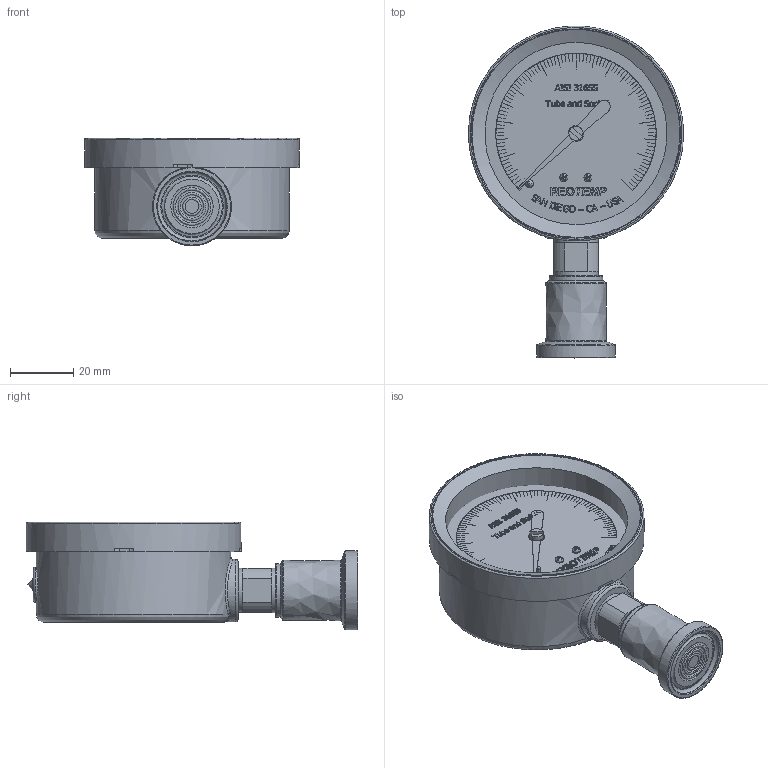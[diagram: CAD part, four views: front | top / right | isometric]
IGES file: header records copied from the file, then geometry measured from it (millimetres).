
Global section: file name: SG25-3quarter-Triclamp-IGS; native system: Autodesk Inventor 2018; preprocessor: unknown; author: MNeill; date: 20170925.144834; units: inch
Bounding box: 68.07 x 105.09 x 34.14 mm (x, y, z)
Volume: 54584.6 mm3; surface area: 32876.2 mm2
Topology: 25 solids, 25 shells, 1310 faces, 3620 edges, 2420 vertices
Faces by surface type: bspline 1310
